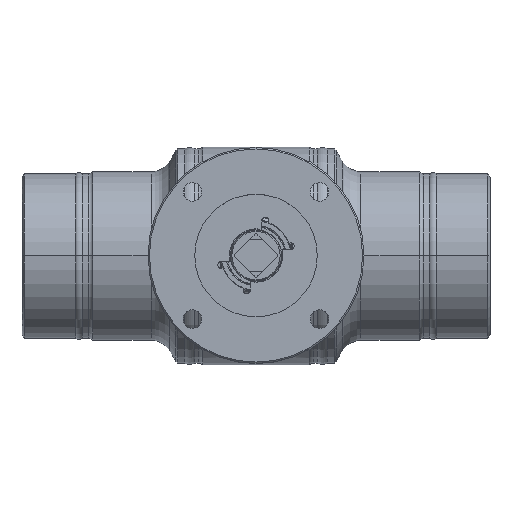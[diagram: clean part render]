
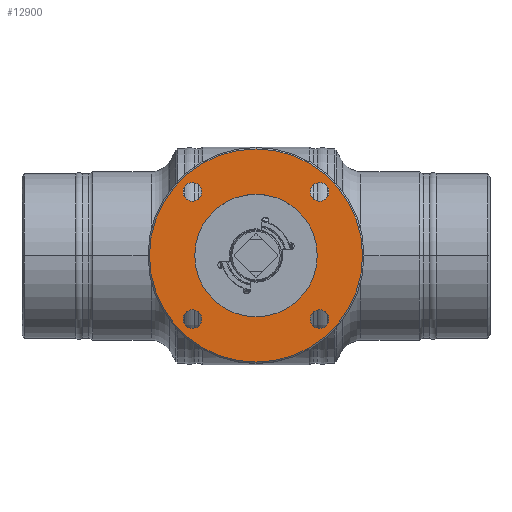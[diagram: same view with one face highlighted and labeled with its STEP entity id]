
A CAD part, top view. The second image highlights one B-rep face of the part: STEP entity #12900.
In plain terms, the highlighted planar face has unit normal (0, 0, 1).
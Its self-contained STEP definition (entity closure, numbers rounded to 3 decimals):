
#2733=CARTESIAN_POINT('',(0.,0.,190.));
#2734=DIRECTION('',(0.,0.,1.));
#2735=DIRECTION('',(0.,1.,0.));
#2736=AXIS2_PLACEMENT_3D('',#2733,#2734,#2735);
#2742=CARTESIAN_POINT('',(0.,0.,190.));
#2743=DIRECTION('',(0.,0.,1.));
#2744=DIRECTION('',(0.,-1.,0.));
#2745=AXIS2_PLACEMENT_3D('',#2742,#2743,#2744);
#2760=CARTESIAN_POINT('',(44.194,-44.194,190.));
#2761=DIRECTION('',(0.,0.,1.));
#2762=DIRECTION('',(0.,-1.,0.));
#2763=AXIS2_PLACEMENT_3D('',#2760,#2761,#2762);
#2765=CARTESIAN_POINT('',(44.194,-44.194,190.));
#2766=DIRECTION('',(0.,0.,1.));
#2767=DIRECTION('',(0.,1.,0.));
#2768=AXIS2_PLACEMENT_3D('',#2765,#2766,#2767);
#2770=CARTESIAN_POINT('',(-44.194,-44.194,190.));
#2771=DIRECTION('',(0.,0.,1.));
#2772=DIRECTION('',(0.,-1.,0.));
#2773=AXIS2_PLACEMENT_3D('',#2770,#2771,#2772);
#2775=CARTESIAN_POINT('',(-44.194,-44.194,190.));
#2776=DIRECTION('',(0.,0.,1.));
#2777=DIRECTION('',(0.,1.,0.));
#2778=AXIS2_PLACEMENT_3D('',#2775,#2776,#2777);
#2780=CARTESIAN_POINT('',(-44.194,44.194,190.));
#2781=DIRECTION('',(0.,0.,1.));
#2782=DIRECTION('',(0.,-1.,0.));
#2783=AXIS2_PLACEMENT_3D('',#2780,#2781,#2782);
#2785=CARTESIAN_POINT('',(-44.194,44.194,190.));
#2786=DIRECTION('',(0.,0.,1.));
#2787=DIRECTION('',(0.,1.,0.));
#2788=AXIS2_PLACEMENT_3D('',#2785,#2786,#2787);
#2790=CARTESIAN_POINT('',(44.194,44.194,190.));
#2791=DIRECTION('',(0.,0.,1.));
#2792=DIRECTION('',(0.,-1.,0.));
#2793=AXIS2_PLACEMENT_3D('',#2790,#2791,#2792);
#2795=CARTESIAN_POINT('',(44.194,44.194,190.));
#2796=DIRECTION('',(0.,0.,1.));
#2797=DIRECTION('',(0.,1.,0.));
#2798=AXIS2_PLACEMENT_3D('',#2795,#2796,#2797);
#2800=CARTESIAN_POINT('',(0.,0.,190.));
#2801=DIRECTION('',(0.,0.,1.));
#2802=DIRECTION('',(0.,-1.,0.));
#2803=AXIS2_PLACEMENT_3D('',#2800,#2801,#2802);
#2805=CARTESIAN_POINT('',(0.,0.,190.));
#2806=DIRECTION('',(0.,0.,1.));
#2807=DIRECTION('',(0.,1.,0.));
#2808=AXIS2_PLACEMENT_3D('',#2805,#2806,#2807);
#6000=CARTESIAN_POINT('',(0.,42.55,190.));
#6001=VERTEX_POINT('',#6000);
#6002=CARTESIAN_POINT('',(0.,-42.55,190.));
#6003=VERTEX_POINT('',#6002);
#6004=CARTESIAN_POINT('',(44.194,-50.694,190.));
#6005=CARTESIAN_POINT('',(44.194,-37.694,190.));
#6006=VERTEX_POINT('',#6004);
#6007=VERTEX_POINT('',#6005);
#6008=CARTESIAN_POINT('',(-44.194,-50.694,190.));
#6009=CARTESIAN_POINT('',(-44.194,-37.694,190.));
#6010=VERTEX_POINT('',#6008);
#6011=VERTEX_POINT('',#6009);
#6012=CARTESIAN_POINT('',(-44.194,37.694,190.));
#6013=CARTESIAN_POINT('',(-44.194,50.694,190.));
#6014=VERTEX_POINT('',#6012);
#6015=VERTEX_POINT('',#6013);
#6016=CARTESIAN_POINT('',(44.194,37.694,190.));
#6017=CARTESIAN_POINT('',(44.194,50.694,190.));
#6018=VERTEX_POINT('',#6016);
#6019=VERTEX_POINT('',#6017);
#6048=CARTESIAN_POINT('',(0.,74.,190.));
#6049=VERTEX_POINT('',#6048);
#6050=CARTESIAN_POINT('',(0.,-74.,190.));
#6051=VERTEX_POINT('',#6050);
#12861=CARTESIAN_POINT('',(0.,0.,190.));
#12862=DIRECTION('',(0.,0.,-1.));
#12863=DIRECTION('',(0.,1.,0.));
#12864=AXIS2_PLACEMENT_3D('',#12861,#12862,#12863);
#12865=PLANE('',#12864);
#12866=ORIENTED_EDGE('',*,*,#12828,.F.);
#12867=ORIENTED_EDGE('',*,*,#12843,.F.);
#12868=EDGE_LOOP('',(#12866,#12867));
#12869=FACE_OUTER_BOUND('',#12868,.F.);
#12871=ORIENTED_EDGE('',*,*,#12870,.T.);
#12873=ORIENTED_EDGE('',*,*,#12872,.T.);
#12874=EDGE_LOOP('',(#12871,#12873));
#12875=FACE_BOUND('',#12874,.F.);
#12877=ORIENTED_EDGE('',*,*,#12876,.T.);
#12879=ORIENTED_EDGE('',*,*,#12878,.T.);
#12880=EDGE_LOOP('',(#12877,#12879));
#12881=FACE_BOUND('',#12880,.F.);
#12883=ORIENTED_EDGE('',*,*,#12882,.T.);
#12885=ORIENTED_EDGE('',*,*,#12884,.T.);
#12886=EDGE_LOOP('',(#12883,#12885));
#12887=FACE_BOUND('',#12886,.F.);
#12889=ORIENTED_EDGE('',*,*,#12888,.T.);
#12891=ORIENTED_EDGE('',*,*,#12890,.T.);
#12892=EDGE_LOOP('',(#12889,#12891));
#12893=FACE_BOUND('',#12892,.F.);
#12895=ORIENTED_EDGE('',*,*,#12894,.T.);
#12897=ORIENTED_EDGE('',*,*,#12896,.T.);
#12898=EDGE_LOOP('',(#12895,#12897));
#12899=FACE_BOUND('',#12898,.F.);
#12900=ADVANCED_FACE('',(#12869,#12875,#12881,#12887,#12893,#12899),#12865,.F.);
#2737=CIRCLE('',#2736,74.);
#2746=CIRCLE('',#2745,74.);
#2764=CIRCLE('',#2763,6.5);
#2769=CIRCLE('',#2768,6.5);
#2774=CIRCLE('',#2773,6.5);
#2779=CIRCLE('',#2778,6.5);
#2784=CIRCLE('',#2783,6.5);
#2789=CIRCLE('',#2788,6.5);
#2794=CIRCLE('',#2793,6.5);
#2799=CIRCLE('',#2798,6.5);
#2804=CIRCLE('',#2803,42.55);
#2809=CIRCLE('',#2808,42.55);
#12828=EDGE_CURVE('',#6049,#6051,#2737,.T.);
#12843=EDGE_CURVE('',#6051,#6049,#2746,.T.);
#12870=EDGE_CURVE('',#6006,#6007,#2764,.T.);
#12872=EDGE_CURVE('',#6007,#6006,#2769,.T.);
#12876=EDGE_CURVE('',#6010,#6011,#2774,.T.);
#12878=EDGE_CURVE('',#6011,#6010,#2779,.T.);
#12882=EDGE_CURVE('',#6014,#6015,#2784,.T.);
#12884=EDGE_CURVE('',#6015,#6014,#2789,.T.);
#12888=EDGE_CURVE('',#6018,#6019,#2794,.T.);
#12890=EDGE_CURVE('',#6019,#6018,#2799,.T.);
#12894=EDGE_CURVE('',#6003,#6001,#2804,.T.);
#12896=EDGE_CURVE('',#6001,#6003,#2809,.T.);
